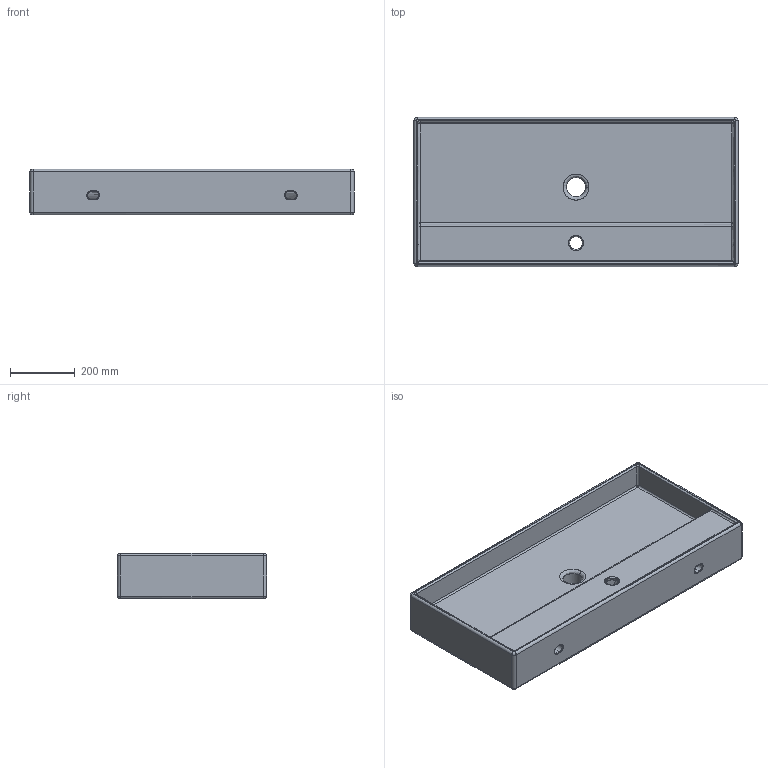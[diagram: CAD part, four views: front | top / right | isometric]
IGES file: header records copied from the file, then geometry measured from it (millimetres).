
Start section: C
Global section: file name: Teorema 100 R-A.igs; native system:  By UGS Corp.; preprocessor: XPlus GENERIC/IGES 3.0; author: Author; organization: Title; date: 20120604.153127; units: millimetre
Bounding box: 1000 x 460 x 140 mm (x, y, z)
Surface area: 1723968.6 mm2 (no closed solid volume)
Topology: 0 solids, 0 shells, 214 faces, 998 edges, 986 vertices
Faces by surface type: bspline 214
